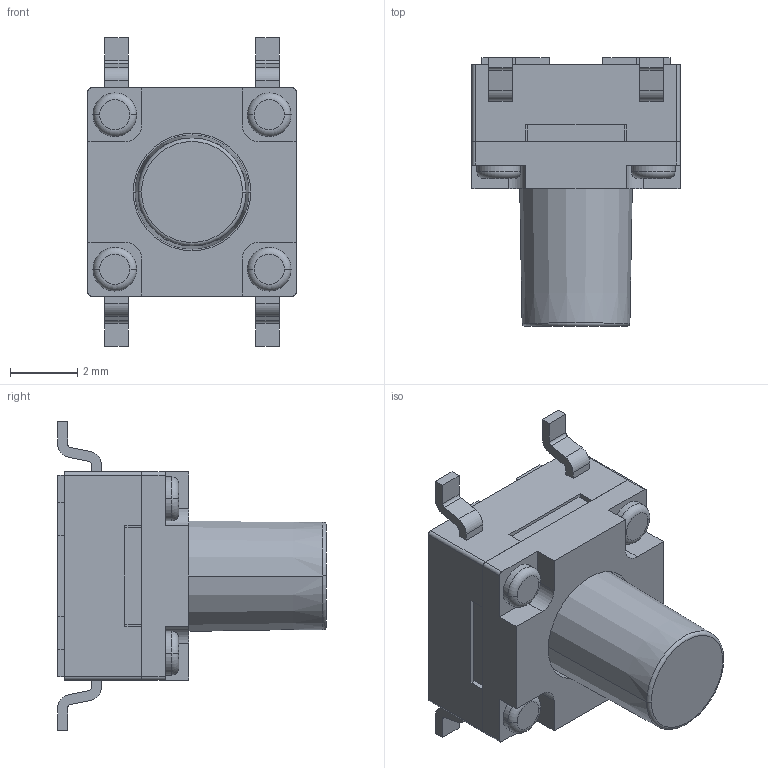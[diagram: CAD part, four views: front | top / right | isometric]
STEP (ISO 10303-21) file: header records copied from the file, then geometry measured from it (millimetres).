
FILE_DESCRIPTION((''),'2;1');
FILE_NAME('JQA6060YF-B0801-01EGK-1-101_ASM','2026-05-13T14:55:54',('Admin'),(''),'CREO PARAMETRIC BY PTC INC, 2019224','CREO PARAMETRIC BY PTC INC, 2019224','');
FILE_SCHEMA(('AUTOMOTIVE_DESIGN { 1 0 10303 214 1 1 1 1 }'));
Length unit declared in the file: millimetre
Products named in the file (3): JQA6060YF-B0801-01EGK-1-101_01; JQA6060YF-B0801-01EGK-1-101_02; JQA6060YF-B0801-01EGK-1-101_ASM
Assembly tree (2 placements, depth 2):
  JQA6060YF-B0801-01EGK-1-101_ASM
    JQA6060YF-B0801-01EGK-1-101_01
    JQA6060YF-B0801-01EGK-1-101_02
Bounding box: 6.2 x 8 x 9.2 mm (x, y, z)
Volume: 175.8 mm3; surface area: 357.8 mm2
Topology: 2 solids, 2 shells, 197 faces, 522 edges, 358 vertices
Faces by surface type: plane 131, cylinder 54, torus 10, cone 2
Entity records: 8508 total; most frequent: CARTESIAN_POINT 1075, DIRECTION 1070, ORIENTED_EDGE 1024, PRESENTATION_STYLE_ASSIGNMENT 579, STYLED_ITEM 527, CURVE_STYLE 525, EDGE_CURVE 512, VECTOR 390
